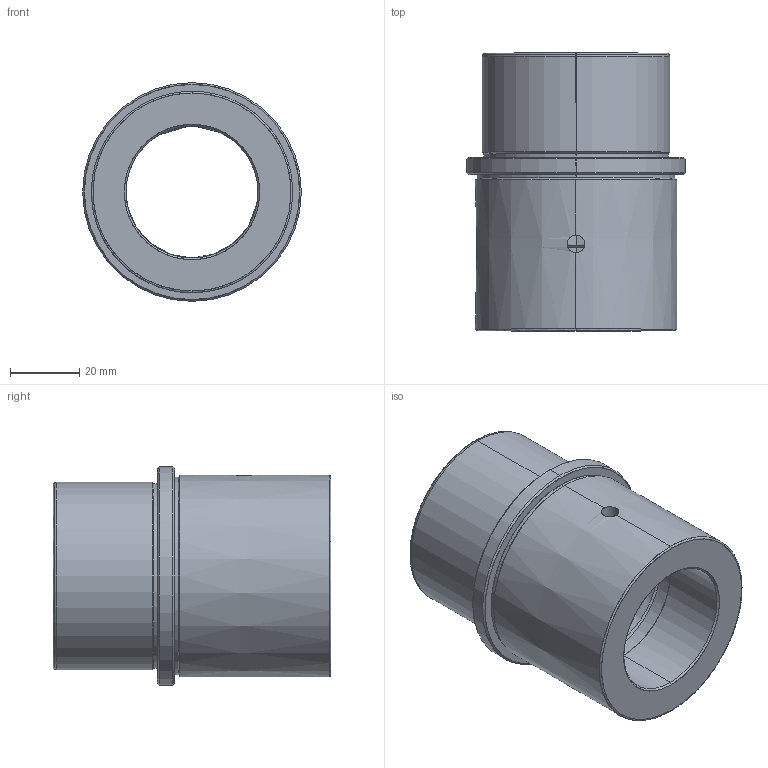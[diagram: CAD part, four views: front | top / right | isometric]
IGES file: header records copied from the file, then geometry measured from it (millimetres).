
Start section: SolidWorks IGES file using analytic representation for surfaces
Global section: file name: D:\Cleonir_arquivos\MT_15_07\Buchas Desmontáveis Normais\BN38080.igs; native system: SolidWorks 2013; preprocessor: SolidWorks 2013; author: Cleonir; date: 130726.193421; units: millimetre
Bounding box: 63 x 80 x 63 mm (x, y, z)
Surface area: 27994 mm2 (no closed solid volume)
Topology: 0 solids, 0 shells, 330 faces, 4674 edges, 4674 vertices
Faces by surface type: bspline 278, revolution 52
